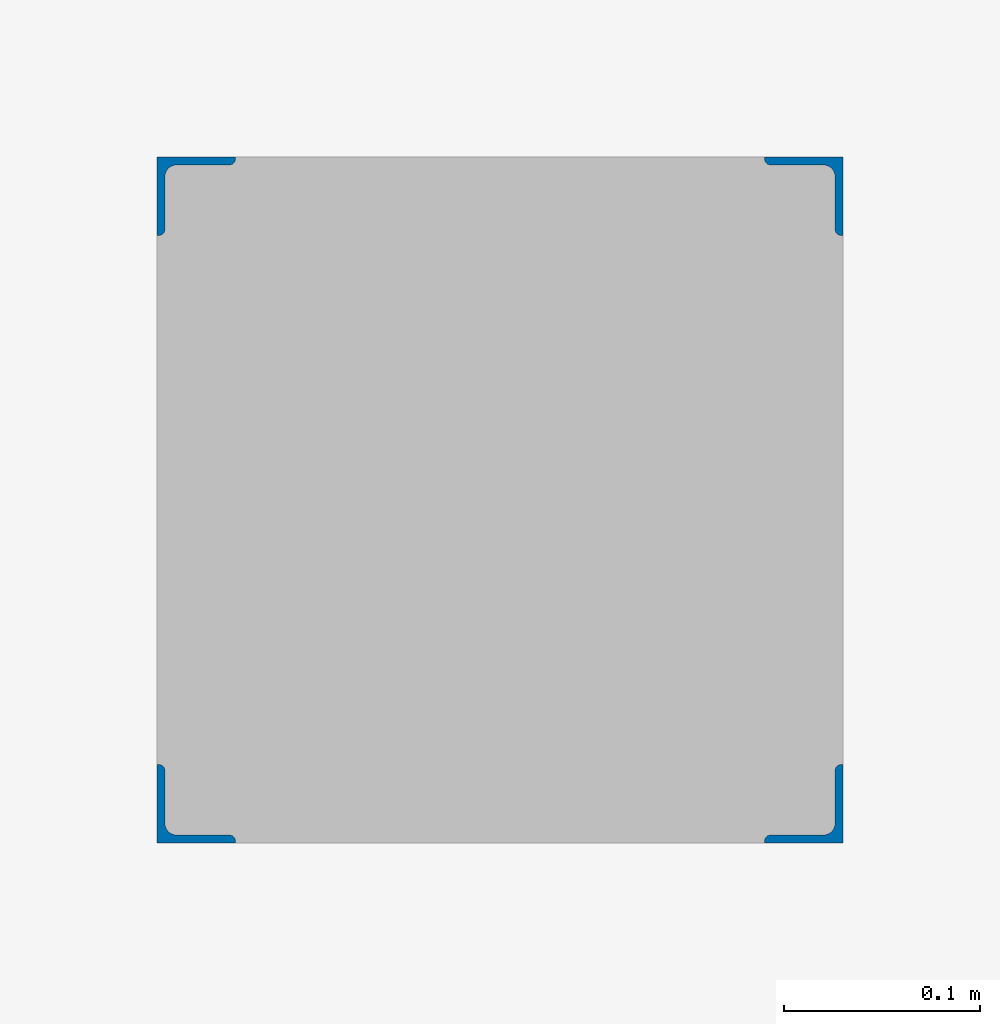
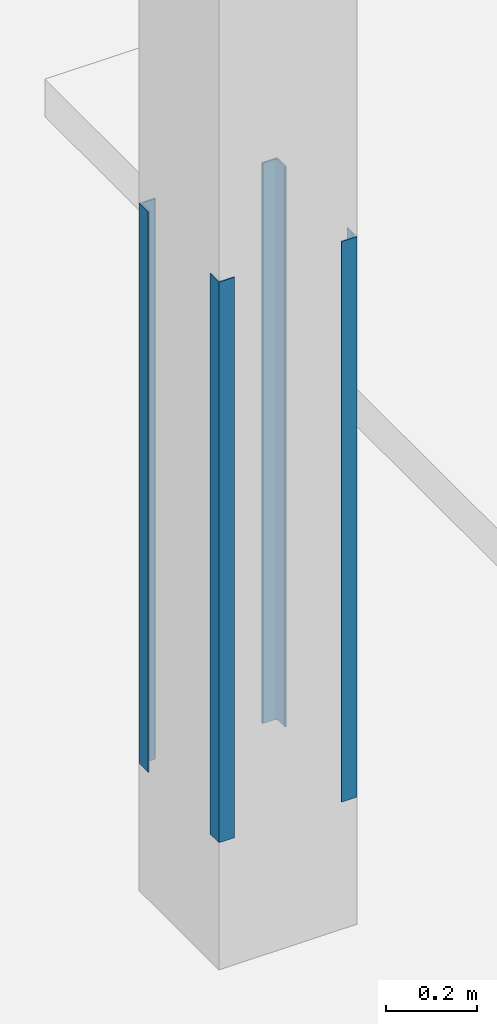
# One storey, part 10 of 42: 4 columns.
"""IFC2X3 building model written with IfcOpenShell, lengths in millimetres."""

from ifc_helpers import new_model, entity, si_unit, converted_unit, derived_unit, direction, frame, frame_2d, origin, place, context, subcontext, project, spatial, polyline, circle_curve, parameter, trimmed, segment, composite_curve, outline, extrude, source, transform, mapped, material, type_object, type_shapes, element, save


model = new_model("IFC2X3")

# Units and contexts
model_context = context("Model", 3, precision=0.01, world=origin(), true_north=direction((6.12303176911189e-17, 1.0)))
body_context = subcontext(model_context, "Body", "Model", "MODEL_VIEW")
ifc_project = project(units=[si_unit("LENGTHUNIT", "METRE", prefix="MILLI"), si_unit("AREAUNIT", "SQUARE_METRE", prefix="MILLI"), si_unit("VOLUMEUNIT", "CUBIC_METRE"), converted_unit("PLANEANGLEUNIT", "DEGREE", entity("IfcRatioMeasure", 0.0174532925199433), si_unit("PLANEANGLEUNIT", "RADIAN"), dimensions=[0, 0, 0, 0, 0, 0, 0]), si_unit("MASSUNIT", "GRAM", prefix="KILO"), derived_unit("MASSDENSITYUNIT", [(si_unit("MASSUNIT", "GRAM", prefix="KILO"), 1), (si_unit("LENGTHUNIT", "METRE"), -3)]), derived_unit("MOMENTOFINERTIAUNIT", [(si_unit("LENGTHUNIT", "METRE"), 4)]), si_unit("TIMEUNIT", "SECOND"), si_unit("FREQUENCYUNIT", "HERTZ"), si_unit("THERMODYNAMICTEMPERATUREUNIT", "DEGREE_CELSIUS"), derived_unit("THERMALTRANSMITTANCEUNIT", [(si_unit("MASSUNIT", "GRAM", prefix="KILO"), 1), (si_unit("THERMODYNAMICTEMPERATUREUNIT", "KELVIN"), -1), (si_unit("TIMEUNIT", "SECOND"), -3)]), derived_unit("VOLUMETRICFLOWRATEUNIT", [(si_unit("LENGTHUNIT", "METRE"), 3), (si_unit("TIMEUNIT", "SECOND"), -1)]), si_unit("ELECTRICCURRENTUNIT", "AMPERE"), si_unit("ELECTRICVOLTAGEUNIT", "VOLT"), si_unit("POWERUNIT", "WATT"), si_unit("FORCEUNIT", "NEWTON", prefix="KILO"), si_unit("ILLUMINANCEUNIT", "LUX"), si_unit("LUMINOUSFLUXUNIT", "LUMEN"), si_unit("LUMINOUSINTENSITYUNIT", "CANDELA"), derived_unit("USERDEFINED", [(si_unit("MASSUNIT", "GRAM", prefix="KILO"), -1), (si_unit("LENGTHUNIT", "METRE"), -2), (si_unit("TIMEUNIT", "SECOND"), 3), (si_unit("LUMINOUSFLUXUNIT", "LUMEN"), 1)]), derived_unit("LINEARVELOCITYUNIT", [(si_unit("LENGTHUNIT", "METRE"), 1), (si_unit("TIMEUNIT", "SECOND"), -1)]), si_unit("PRESSUREUNIT", "PASCAL"), derived_unit("USERDEFINED", [(si_unit("LENGTHUNIT", "METRE"), -2), (si_unit("MASSUNIT", "GRAM", prefix="KILO"), 1), (si_unit("TIMEUNIT", "SECOND"), -2)]), derived_unit("LINEARFORCEUNIT", [(si_unit("MASSUNIT", "GRAM", prefix="KILO"), 1), (si_unit("LENGTHUNIT", "METRE"), 1), (si_unit("TIMEUNIT", "SECOND"), -2), (si_unit("LENGTHUNIT", "METRE"), -1)]), derived_unit("PLANARFORCEUNIT", [(si_unit("MASSUNIT", "GRAM", prefix="KILO"), 1), (si_unit("LENGTHUNIT", "METRE"), 1), (si_unit("TIMEUNIT", "SECOND"), -2), (si_unit("LENGTHUNIT", "METRE"), -2)])], contexts=[model_context])

# Site, building, storey
site_placement = place(None, origin())
site = spatial("IfcSite", under=ifc_project, at=site_placement, Name="Theater aan de Parade", CompositionType="ELEMENT")
building_placement = place(site_placement, origin())
building = spatial("IfcBuilding", under=site, at=building_placement, Name="Theater aan de Parade", CompositionType="ELEMENT")
storey_placement = place(building_placement, frame((0.0, 0.0, -3300.0)))
storey = spatial("IfcBuildingStorey", under=building, at=storey_placement, Name="-1 kelder", CompositionType="ELEMENT", Elevation=-3300.0)

# Columns
ifc_material = material(Name="00_PBT_MAT_staal")
column_type_1 = type_object("IfcColumnType", Name="28_PBT_SC_staal_L-profiel:L40x40x4_bestaand", PredefinedType="COLUMN", material=ifc_material)
shared_shape_1 = source(origin(), body_context, "Body", "SweptSolid", [
    extrude(outline(composite_curve([segment(polyline([(-15.1111111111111, -15.1111111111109), (24.8888888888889, -15.1111111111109)]), True, "CONTINUOUS"), segment(polyline([(24.8888888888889, -15.1111111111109), (24.8888888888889, -14.1111111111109)]), True, "CONTINUOUS"), segment(trimmed(circle_curve(frame_2d((21.8888888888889, -14.1111111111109), x_axis=(1.0, 0.0)), 3.0), [parameter(0.0)], [parameter(90.0000000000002)], True, "PARAMETER"), True, "CONTINUOUS"), segment(polyline([(21.8888888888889, -11.1111111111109), (-5.11111111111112, -11.1111111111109)]), True, "CONTINUOUS"), segment(trimmed(circle_curve(frame_2d((-5.11111111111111, -5.11111111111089), x_axis=(0.0, -1.0)), 6.0), [parameter(270.0)], [parameter(0.0)], True, "PARAMETER"), False, "CONTINUOUS"), segment(polyline([(-11.1111111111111, -5.11111111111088), (-11.1111111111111, 21.8888888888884)]), True, "CONTINUOUS"), segment(trimmed(circle_curve(frame_2d((-14.1111111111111, 21.8888888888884), x_axis=(1.0, 0.0)), 3.0), [parameter(0.0)], [parameter(90.0000000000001)], True, "PARAMETER"), True, "CONTINUOUS"), segment(polyline([(-14.1111111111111, 24.8888888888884), (-15.1111111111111, 24.8888888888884)]), True, "CONTINUOUS"), segment(polyline([(-15.1111111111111, 24.8888888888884), (-15.1111111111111, -15.1111111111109)]), True, "CONTINUOUS")], self_intersect=False)), frame((3.91111111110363, -3.9111111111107, -2300.0), z_axis=(0.0, 0.0, 1.0), x_axis=(0.0, -1.0, 0.0)), (0.0, 0.0, 1.0), 1500.0),
])
type_shapes(column_type_1, [shared_shape_1])
column_1_placement = place(storey_placement, frame((74811.2000000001, 20733.7999999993, 3300.0)))
element("IfcColumn", 1, at=column_1_placement, inside=storey, type_object=column_type_1, material=ifc_material, Name="28_PBT_SC_staal_L-profiel:L40x40x4_bestaand", ObjectType="28_PBT_SC_staal_L-profiel:L40x40x4_bestaand", context=body_context, shape_type="MappedRepresentation", body=[
    mapped(shared_shape_1, transform((0.0, 0.0, 0.0), scale=1.0)),
])
column_2_placement = place(storey_placement, frame((75138.7999999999, 20406.1999999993, 3300.0), z_axis=(0.0, 0.0, 1.0), x_axis=(-1.0, 0.0, 0.0)))
element("IfcColumn", 2, at=column_2_placement, inside=storey, type_object=column_type_1, material=ifc_material, Name="28_PBT_SC_staal_L-profiel:L40x40x4_bestaand", ObjectType="28_PBT_SC_staal_L-profiel:L40x40x4_bestaand", context=body_context, shape_type="MappedRepresentation", body=[
    mapped(shared_shape_1, transform((0.0, 0.0, 0.0), scale=1.0)),
])
column_type_2 = type_object("IfcColumnType", Name="28_PBT_SC_staal_L-profiel:L40x40x4_bestaand", PredefinedType="COLUMN", material=ifc_material)
shared_shape_2 = source(origin(), body_context, "Body", "SweptSolid", [
    extrude(outline(composite_curve([segment(polyline([(-24.8888888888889, -15.1111111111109), (15.1111111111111, -15.1111111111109)]), True, "CONTINUOUS"), segment(polyline([(15.1111111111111, -15.1111111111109), (15.1111111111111, 24.8888888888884)]), True, "CONTINUOUS"), segment(polyline([(15.1111111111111, 24.8888888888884), (14.1111111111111, 24.8888888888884)]), True, "CONTINUOUS"), segment(trimmed(circle_curve(frame_2d((14.1111111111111, 21.8888888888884), x_axis=(0.0, 1.0)), 3.0), [parameter(0.0)], [parameter(89.9999999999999)], True, "PARAMETER"), True, "CONTINUOUS"), segment(polyline([(11.1111111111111, 21.8888888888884), (11.1111111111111, -5.11111111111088)]), True, "CONTINUOUS"), segment(trimmed(circle_curve(frame_2d((5.1111111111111, -5.1111111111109), x_axis=(1.0, 0.0)), 6.0), [parameter(270.0)], [parameter(0.0)], True, "PARAMETER"), False, "CONTINUOUS"), segment(polyline([(5.11111111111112, -11.1111111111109), (-21.8888888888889, -11.1111111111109)]), True, "CONTINUOUS"), segment(trimmed(circle_curve(frame_2d((-21.8888888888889, -14.1111111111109), x_axis=(0.0, 1.0)), 3.0), [parameter(0.0)], [parameter(90.0000000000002)], True, "PARAMETER"), True, "CONTINUOUS"), segment(polyline([(-24.8888888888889, -14.1111111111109), (-24.8888888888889, -15.1111111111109)]), True, "CONTINUOUS")], self_intersect=False)), frame((3.91111111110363, 3.91111111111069, -2300.0), z_axis=(0.0, 0.0, 1.0), x_axis=(0.0, -1.0, 0.0)), (0.0, 0.0, 1.0), 1500.0),
])
type_shapes(column_type_2, [shared_shape_2])
column_3_placement = place(storey_placement, frame((75138.7999999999, 20733.7999999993, 3300.0), z_axis=(0.0, 0.0, 1.0), x_axis=(-1.0, 0.0, 0.0)))
element("IfcColumn", 3, at=column_3_placement, inside=storey, type_object=column_type_2, material=ifc_material, Name="28_PBT_SC_staal_L-profiel:L40x40x4_bestaand", ObjectType="28_PBT_SC_staal_L-profiel:L40x40x4_bestaand", context=body_context, shape_type="MappedRepresentation", body=[
    mapped(shared_shape_2, transform((0.0, 0.0, 0.0), scale=1.0)),
])
column_4_placement = place(storey_placement, frame((74811.2000000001, 20406.1999999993, 3300.0)))
element("IfcColumn", 4, at=column_4_placement, inside=storey, type_object=column_type_2, material=ifc_material, Name="28_PBT_SC_staal_L-profiel:L40x40x4_bestaand", ObjectType="28_PBT_SC_staal_L-profiel:L40x40x4_bestaand", context=body_context, shape_type="MappedRepresentation", body=[
    mapped(shared_shape_2, transform((0.0, 0.0, 0.0), scale=1.0)),
])

save(model, "model.ifc")
